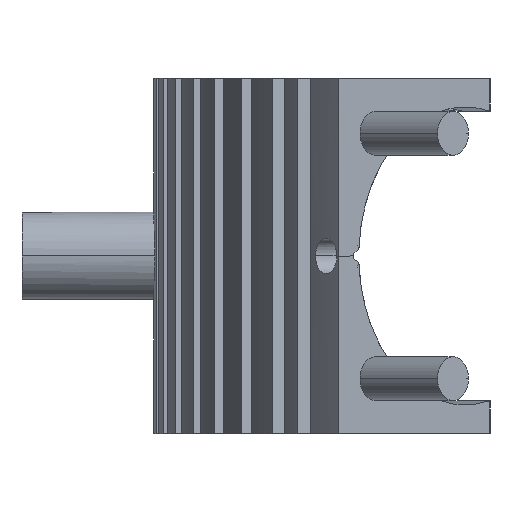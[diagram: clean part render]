
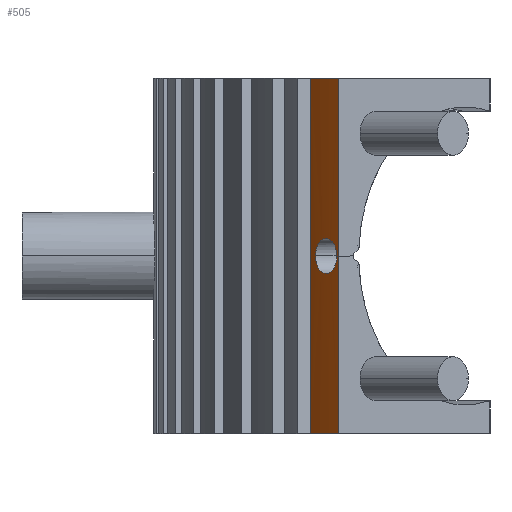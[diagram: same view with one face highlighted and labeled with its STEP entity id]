
A CAD part, left-side view. The second image highlights one B-rep face of the part: STEP entity #505.
In plain terms, the highlighted cylindrical face has radius 190.5 mm (diameter 381 mm), a partial arc.
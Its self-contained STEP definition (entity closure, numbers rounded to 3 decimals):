
#505=ADVANCED_FACE('',(#1012,#1013),#1014,.T.);
#1012=FACE_BOUND('',#1518,.T.);
#1013=FACE_OUTER_BOUND('',#1519,.T.);
#1014=CYLINDRICAL_SURFACE('',#1520,190.5);
#1518=EDGE_LOOP('',(#3104,#3105));
#1519=EDGE_LOOP('',(#3106,#3107,#3108,#3109));
#1520=AXIS2_PLACEMENT_3D('',#3110,#3111,#3112);
#3104=ORIENTED_EDGE('',*,*,#3426,.T.);
#3105=ORIENTED_EDGE('',*,*,#3424,.T.);
#3106=ORIENTED_EDGE('',*,*,#3201,.T.);
#3107=ORIENTED_EDGE('',*,*,#3350,.T.);
#3108=ORIENTED_EDGE('',*,*,#3445,.T.);
#3109=ORIENTED_EDGE('',*,*,#3234,.T.);
#3110=CARTESIAN_POINT('',(0.,0.,2.5));
#3111=DIRECTION('',(0.,0.,1.0));
#3112=DIRECTION('',(1.0,0.,0.));
#3201=EDGE_CURVE('',#3877,#3875,#3878,.T.);
#3234=EDGE_CURVE('',#3934,#3877,#3935,.T.);
#3350=EDGE_CURVE('',#3875,#4138,#4140,.T.);
#3424=EDGE_CURVE('',#4257,#4263,#4265,.T.);
#3426=EDGE_CURVE('',#4263,#4257,#4267,.T.);
#3445=EDGE_CURVE('',#4138,#3934,#4298,.T.);
#3875=VERTEX_POINT('',#5037);
#3877=VERTEX_POINT('',#5040);
#3878=LINE('',#5041,#5042);
#3934=VERTEX_POINT('',#5323);
#3935=CIRCLE('',#5324,190.5);
#4138=VERTEX_POINT('',#5615);
#4140=CIRCLE('',#5618,190.5);
#4257=VERTEX_POINT('',#6032);
#4263=VERTEX_POINT('',#6060);
#4265=B_SPLINE_CURVE_WITH_KNOTS('',3,(#6063,#6064,#6065,#6066,#6067,#6068,#6069,#6070,#6071,#6072,#6073,#6074,#6075,#6076,#6077,#6078,#6079,#6080,#6081,#6082,#6083,#6084,#6085,#6086,#6087,#6088,#6089,#6090,#6091,#6092,#6093,#6094,#6095,#6096),.UNSPECIFIED.,.F.,.F.,(4,2,2,2,2,2,2,2,2,2,2,2,2,2,2,2,4),(12.054,12.808,13.561,14.315,15.068,15.821,16.575,17.328,18.082,18.835,19.588,20.342,21.095,21.849,22.602,23.355,24.109),.UNSPECIFIED.);
#4267=B_SPLINE_CURVE_WITH_KNOTS('',3,(#6098,#6099,#6100,#6101,#6102,#6103,#6104,#6105,#6106,#6107,#6108,#6109,#6110,#6111,#6112,#6113,#6114,#6115,#6116,#6117,#6118,#6119,#6120,#6121,#6122,#6123,#6124,#6125,#6126,#6127,#6128,#6129,#6130,#6131),.UNSPECIFIED.,.F.,.F.,(4,2,2,2,2,2,2,2,2,2,2,2,2,2,2,2,4),(0.0,0.753,1.507,2.26,3.014,3.767,4.52,5.274,6.027,6.781,7.534,8.287,9.041,9.794,10.548,11.301,12.054),.UNSPECIFIED.);
#4298=LINE('',#6346,#6347);
#5037=CARTESIAN_POINT('',(-111.165,154.702,2.5));
#5040=CARTESIAN_POINT('',(-111.165,154.702,83.5));
#5041=CARTESIAN_POINT('',(-111.165,154.702,43.0));
#5042=VECTOR('',#7695,1.0);
#5323=CARTESIAN_POINT('',(-119.591,148.285,83.5));
#5324=AXIS2_PLACEMENT_3D('',#7730,#7731,#7732);
#5615=CARTESIAN_POINT('',(-119.591,148.285,2.5));
#5618=AXIS2_PLACEMENT_3D('',#7912,#7913,#7914);
#6032=CARTESIAN_POINT('',(-119.117,148.665,43.));
#6060=CARTESIAN_POINT('',(-112.77,153.536,43.0));
#6063=CARTESIAN_POINT('',(-119.117,148.665,43.));
#6064=CARTESIAN_POINT('',(-119.117,148.665,42.749));
#6065=CARTESIAN_POINT('',(-119.098,148.68,42.489));
#6066=CARTESIAN_POINT('',(-119.019,148.744,41.973));
#6067=CARTESIAN_POINT('',(-118.959,148.792,41.716));
#6068=CARTESIAN_POINT('',(-118.799,148.919,41.223));
#6069=CARTESIAN_POINT('',(-118.7,148.999,40.987));
#6070=CARTESIAN_POINT('',(-118.47,149.182,40.55));
#6071=CARTESIAN_POINT('',(-118.339,149.285,40.349));
#6072=CARTESIAN_POINT('',(-118.061,149.506,39.994));
#6073=CARTESIAN_POINT('',(-117.903,149.63,39.827));
#6074=CARTESIAN_POINT('',(-117.56,149.9,39.534));
#6075=CARTESIAN_POINT('',(-117.374,150.046,39.407));
#6076=CARTESIAN_POINT('',(-116.985,150.349,39.202));
#6077=CARTESIAN_POINT('',(-116.783,150.506,39.125));
#6078=CARTESIAN_POINT('',(-116.374,150.822,39.024));
#6079=CARTESIAN_POINT('',(-116.168,150.981,39.0));
#6080=CARTESIAN_POINT('',(-115.77,151.287,39.0));
#6081=CARTESIAN_POINT('',(-115.563,151.444,39.024));
#6082=CARTESIAN_POINT('',(-115.152,151.757,39.125));
#6083=CARTESIAN_POINT('',(-114.948,151.912,39.202));
#6084=CARTESIAN_POINT('',(-114.554,152.209,39.407));
#6085=CARTESIAN_POINT('',(-114.365,152.351,39.534));
#6086=CARTESIAN_POINT('',(-114.016,152.613,39.827));
#6087=CARTESIAN_POINT('',(-113.855,152.733,39.994));
#6088=CARTESIAN_POINT('',(-113.57,152.945,40.349));
#6089=CARTESIAN_POINT('',(-113.436,153.044,40.55));
#6090=CARTESIAN_POINT('',(-113.2,153.219,40.987));
#6091=CARTESIAN_POINT('',(-113.098,153.294,41.223));
#6092=CARTESIAN_POINT('',(-112.933,153.416,41.716));
#6093=CARTESIAN_POINT('',(-112.871,153.461,41.973));
#6094=CARTESIAN_POINT('',(-112.789,153.521,42.489));
#6095=CARTESIAN_POINT('',(-112.77,153.536,42.749));
#6096=CARTESIAN_POINT('',(-112.77,153.536,43.0));
#6098=CARTESIAN_POINT('',(-112.77,153.536,43.0));
#6099=CARTESIAN_POINT('',(-112.77,153.536,43.251));
#6100=CARTESIAN_POINT('',(-112.789,153.521,43.511));
#6101=CARTESIAN_POINT('',(-112.871,153.461,44.027));
#6102=CARTESIAN_POINT('',(-112.933,153.416,44.284));
#6103=CARTESIAN_POINT('',(-113.098,153.294,44.777));
#6104=CARTESIAN_POINT('',(-113.2,153.219,45.013));
#6105=CARTESIAN_POINT('',(-113.436,153.044,45.45));
#6106=CARTESIAN_POINT('',(-113.57,152.945,45.651));
#6107=CARTESIAN_POINT('',(-113.855,152.733,46.006));
#6108=CARTESIAN_POINT('',(-114.016,152.613,46.173));
#6109=CARTESIAN_POINT('',(-114.365,152.351,46.466));
#6110=CARTESIAN_POINT('',(-114.554,152.209,46.593));
#6111=CARTESIAN_POINT('',(-114.948,151.912,46.798));
#6112=CARTESIAN_POINT('',(-115.152,151.757,46.875));
#6113=CARTESIAN_POINT('',(-115.563,151.444,46.976));
#6114=CARTESIAN_POINT('',(-115.77,151.287,47.0));
#6115=CARTESIAN_POINT('',(-116.168,150.981,47.0));
#6116=CARTESIAN_POINT('',(-116.374,150.822,46.976));
#6117=CARTESIAN_POINT('',(-116.783,150.506,46.875));
#6118=CARTESIAN_POINT('',(-116.985,150.349,46.798));
#6119=CARTESIAN_POINT('',(-117.374,150.046,46.593));
#6120=CARTESIAN_POINT('',(-117.56,149.9,46.466));
#6121=CARTESIAN_POINT('',(-117.903,149.63,46.173));
#6122=CARTESIAN_POINT('',(-118.061,149.506,46.006));
#6123=CARTESIAN_POINT('',(-118.339,149.285,45.651));
#6124=CARTESIAN_POINT('',(-118.47,149.182,45.45));
#6125=CARTESIAN_POINT('',(-118.7,148.999,45.013));
#6126=CARTESIAN_POINT('',(-118.799,148.919,44.777));
#6127=CARTESIAN_POINT('',(-118.959,148.792,44.284));
#6128=CARTESIAN_POINT('',(-119.019,148.744,44.027));
#6129=CARTESIAN_POINT('',(-119.098,148.68,43.511));
#6130=CARTESIAN_POINT('',(-119.117,148.665,43.251));
#6131=CARTESIAN_POINT('',(-119.117,148.665,43.));
#6346=CARTESIAN_POINT('',(-119.591,148.285,2.5));
#6347=VECTOR('',#8032,1.0);
#7695=DIRECTION('',(0.,0.,-1.0));
#7730=CARTESIAN_POINT('',(0.,0.,83.5));
#7731=DIRECTION('',(0.,0.,-1.0));
#7732=DIRECTION('',(1.0,0.,0.));
#7912=CARTESIAN_POINT('',(0.,0.,2.5));
#7913=DIRECTION('',(0.,0.,1.0));
#7914=DIRECTION('',(1.0,0.,0.));
#8032=DIRECTION('',(0.,0.,1.0));
